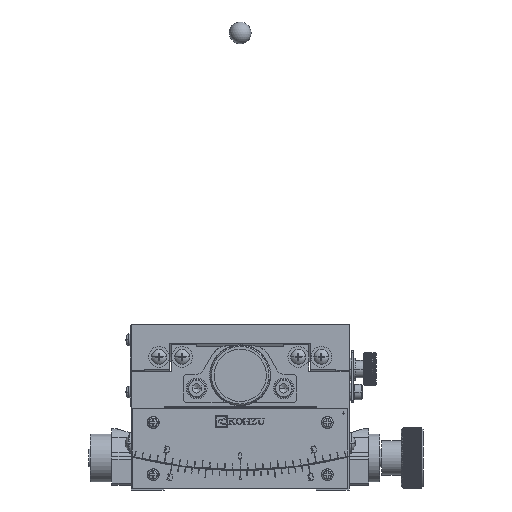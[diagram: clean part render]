
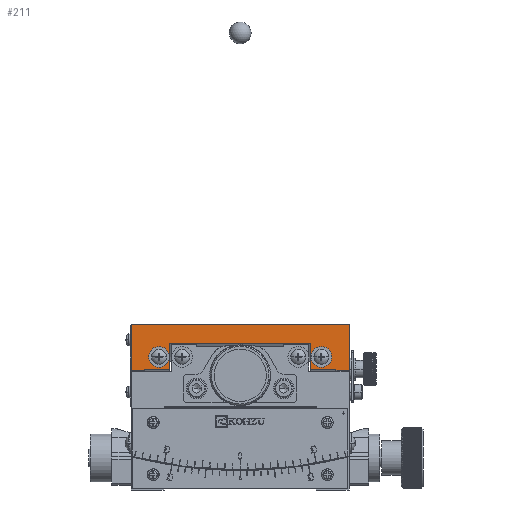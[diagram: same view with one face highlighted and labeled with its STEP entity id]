
A CAD part, front view. The second image highlights one B-rep face of the part: STEP entity #211.
In plain terms, the highlighted planar face has unit normal (0, -1, 0).
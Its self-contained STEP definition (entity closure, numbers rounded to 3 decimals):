
#211=ADVANCED_FACE('',(#4820,#4821,#4822),#4819,.T.);
#4819=PLANE('',#49211);
#4820=FACE_OUTER_BOUND('',#49212,.T.);
#4821=FACE_BOUND('',#49213,.T.);
#4822=FACE_BOUND('',#49214,.T.);
#49208=CARTESIAN_POINT('',(60.,-50.,78.093));
#49209=DIRECTION('',(0.,-1.,0.));
#49210=DIRECTION('',(-1.,0.,0.));
#49211=AXIS2_PLACEMENT_3D('',#49208,#49209,#49210);
#49212=EDGE_LOOP('',(#75693,#75694,#75695,#75696,#75697,#75698,#75699,#75700,#75701,#75702,#75703,#75704));
#49213=EDGE_LOOP('',(#75705,#75706));
#49214=EDGE_LOOP('',(#75707,#75708));
#75693=ORIENTED_EDGE('',*,*,#97741,.F.);
#75694=ORIENTED_EDGE('',*,*,#97643,.F.);
#75695=ORIENTED_EDGE('',*,*,#97647,.T.);
#75696=ORIENTED_EDGE('',*,*,#97649,.T.);
#75697=ORIENTED_EDGE('',*,*,#97742,.F.);
#75698=ORIENTED_EDGE('',*,*,#97655,.T.);
#75699=ORIENTED_EDGE('',*,*,#97740,.T.);
#75700=ORIENTED_EDGE('',*,*,#97656,.F.);
#75701=ORIENTED_EDGE('',*,*,#97673,.F.);
#75702=ORIENTED_EDGE('',*,*,#97627,.T.);
#75703=ORIENTED_EDGE('',*,*,#97639,.T.);
#75704=ORIENTED_EDGE('',*,*,#97636,.F.);
#75705=ORIENTED_EDGE('',*,*,#97743,.F.);
#75706=ORIENTED_EDGE('',*,*,#97744,.F.);
#75707=ORIENTED_EDGE('',*,*,#97745,.F.);
#75708=ORIENTED_EDGE('',*,*,#97746,.F.);
#97627=EDGE_CURVE('',#108776,#108769,#108777,.T.);
#97636=EDGE_CURVE('',#108831,#108839,#108840,.T.);
#97639=EDGE_CURVE('',#108769,#108839,#108859,.T.);
#97643=EDGE_CURVE('',#108877,#108885,#108886,.T.);
#97647=EDGE_CURVE('',#108877,#108905,#108913,.T.);
#97649=EDGE_CURVE('',#108905,#108925,#108926,.T.);
#97655=EDGE_CURVE('',#108946,#108960,#108967,.T.);
#97656=EDGE_CURVE('',#108973,#108974,#108975,.T.);
#97673=EDGE_CURVE('',#108776,#108973,#109092,.T.);
#97740=EDGE_CURVE('',#108960,#108974,#109556,.T.);
#97741=EDGE_CURVE('',#108885,#108831,#109562,.T.);
#97742=EDGE_CURVE('',#108946,#108925,#109568,.T.);
#97743=EDGE_CURVE('',#109574,#109575,#109576,.T.);
#97744=EDGE_CURVE('',#109575,#109574,#109582,.T.);
#97745=EDGE_CURVE('',#109588,#109589,#109590,.T.);
#97746=EDGE_CURVE('',#109589,#109588,#109596,.T.);
#108769=VERTEX_POINT('',#181920);
#108776=VERTEX_POINT('',#181925);
#108777=LINE('',#181926,#181927);
#108831=VERTEX_POINT('',#181958);
#108839=VERTEX_POINT('',#181964);
#108840=LINE('',#181965,#181966);
#108859=LINE('',#181976,#181977);
#108877=VERTEX_POINT('',#181986);
#108885=VERTEX_POINT('',#181992);
#108886=LINE('',#181993,#181994);
#108905=VERTEX_POINT('',#182004);
#108913=LINE('',#182010,#182011);
#108925=VERTEX_POINT('',#182016);
#108926=LINE('',#182017,#182018);
#108946=VERTEX_POINT('',#182029);
#108960=VERTEX_POINT('',#182038);
#108967=LINE('',#182043,#182044);
#108973=VERTEX_POINT('',#182046);
#108974=VERTEX_POINT('',#182047);
#108975=LINE('',#182048,#182049);
#109092=LINE('',#182128,#182129);
#109556=LINE('',#182453,#182454);
#109562=LINE('',#182456,#182457);
#109568=LINE('',#182459,#182460);
#109574=VERTEX_POINT('',#182462);
#109575=VERTEX_POINT('',#182463);
#109576=CIRCLE('',#182467,4.75);
#109582=CIRCLE('',#182471,4.75);
#109588=VERTEX_POINT('',#182472);
#109589=VERTEX_POINT('',#182473);
#109590=CIRCLE('',#182477,4.75);
#109596=CIRCLE('',#182481,4.75);
#181920=CARTESIAN_POINT('',(-50.,-50.,55.068));
#181925=CARTESIAN_POINT('',(-50.,-50.,76.));
#181926=CARTESIAN_POINT('',(-50.,-50.,76.));
#181927=VECTOR('',#181928,20.932);
#181928=DIRECTION('',(0.,0.,-1.));
#181958=CARTESIAN_POINT('',(-44.,-50.,55.384));
#181964=CARTESIAN_POINT('',(-44.,-50.,55.068));
#181965=CARTESIAN_POINT('',(-44.,-50.,55.384));
#181966=VECTOR('',#181967,0.315);
#181967=DIRECTION('',(0.,0.,-1.));
#181976=CARTESIAN_POINT('',(-50.,-50.,55.068));
#181977=VECTOR('',#181978,6.);
#181978=DIRECTION('',(1.,0.,0.));
#181986=CARTESIAN_POINT('',(-32.5,-50.,67.518));
#181992=CARTESIAN_POINT('',(-32.5,-50.,55.384));
#181993=CARTESIAN_POINT('',(-32.5,-50.,67.518));
#181994=VECTOR('',#181995,12.135);
#181995=DIRECTION('',(0.,0.,-1.));
#182004=CARTESIAN_POINT('',(32.5,-50.,67.518));
#182010=CARTESIAN_POINT('',(-32.5,-50.,67.518));
#182011=VECTOR('',#182012,65.);
#182012=DIRECTION('',(1.,0.,0.));
#182016=CARTESIAN_POINT('',(32.5,-50.,55.384));
#182017=CARTESIAN_POINT('',(32.5,-50.,67.518));
#182018=VECTOR('',#182019,12.135);
#182019=DIRECTION('',(0.,0.,-1.));
#182029=CARTESIAN_POINT('',(44.,-50.,55.384));
#182038=CARTESIAN_POINT('',(44.,-50.,55.068));
#182043=CARTESIAN_POINT('',(44.,-50.,55.384));
#182044=VECTOR('',#182045,0.315);
#182045=DIRECTION('',(0.,0.,-1.));
#182046=CARTESIAN_POINT('',(50.,-50.,76.));
#182047=CARTESIAN_POINT('',(50.,-50.,55.068));
#182048=CARTESIAN_POINT('',(50.,-50.,76.));
#182049=VECTOR('',#182050,20.932);
#182050=DIRECTION('',(0.,0.,-1.));
#182128=CARTESIAN_POINT('',(-50.,-50.,76.));
#182129=VECTOR('',#182130,100.);
#182130=DIRECTION('',(1.,0.,0.));
#182453=CARTESIAN_POINT('',(44.,-50.,55.068));
#182454=VECTOR('',#182455,6.);
#182455=DIRECTION('',(1.,0.,0.));
#182456=CARTESIAN_POINT('',(-32.5,-50.,55.384));
#182457=VECTOR('',#182458,11.5);
#182458=DIRECTION('',(-1.,0.,0.));
#182459=CARTESIAN_POINT('',(44.,-50.,55.384));
#182460=VECTOR('',#182461,11.5);
#182461=DIRECTION('',(-1.,0.,0.));
#182462=CARTESIAN_POINT('',(32.55,-50.,61.17));
#182463=CARTESIAN_POINT('',(42.05,-50.,61.17));
#182464=CARTESIAN_POINT('',(37.3,-50.,61.17));
#182465=DIRECTION('',(0.,-1.,0.));
#182466=DIRECTION('',(1.,0.,0.));
#182467=AXIS2_PLACEMENT_3D('',#182464,#182465,#182466);
#182468=CARTESIAN_POINT('',(37.3,-50.,61.17));
#182469=DIRECTION('',(0.,-1.,0.));
#182470=DIRECTION('',(1.,0.,0.));
#182471=AXIS2_PLACEMENT_3D('',#182468,#182469,#182470);
#182472=CARTESIAN_POINT('',(-42.05,-50.,61.17));
#182473=CARTESIAN_POINT('',(-32.55,-50.,61.17));
#182474=CARTESIAN_POINT('',(-37.3,-50.,61.17));
#182475=DIRECTION('',(0.,-1.,0.));
#182476=DIRECTION('',(1.,0.,0.));
#182477=AXIS2_PLACEMENT_3D('',#182474,#182475,#182476);
#182478=CARTESIAN_POINT('',(-37.3,-50.,61.17));
#182479=DIRECTION('',(0.,-1.,0.));
#182480=DIRECTION('',(1.,0.,0.));
#182481=AXIS2_PLACEMENT_3D('',#182478,#182479,#182480);
